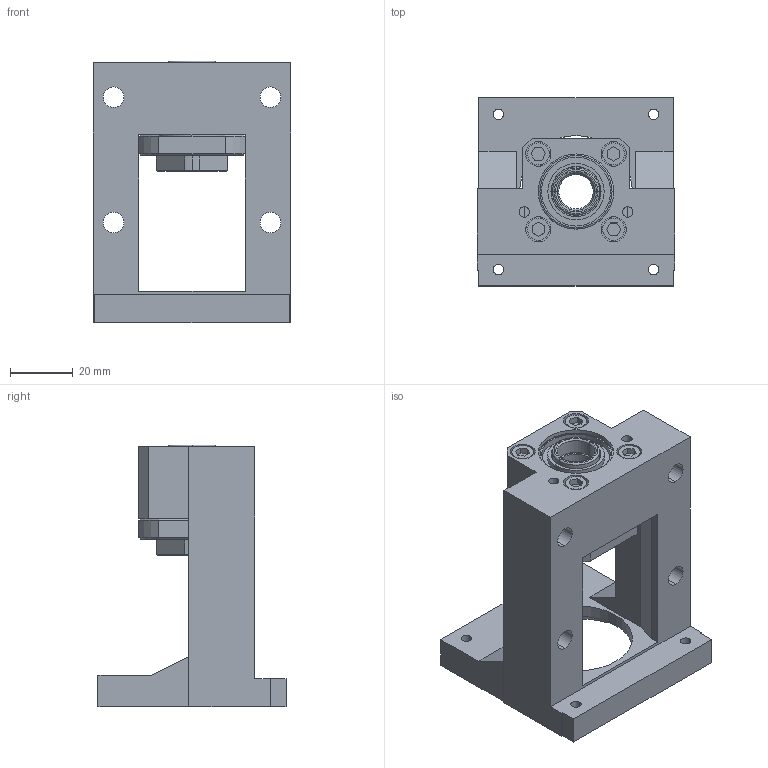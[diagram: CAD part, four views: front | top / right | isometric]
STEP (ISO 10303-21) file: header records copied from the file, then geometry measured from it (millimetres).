
FILE_DESCRIPTION (( 'STEP AP203' ), '1' );
FILE_NAME ('MBCF12-DP.STEP', '2018-11-27T00:35:33', ( '' ), ( '' ), 'SwSTEP 2.0', 'SolidWorks 2018', '' );
FILE_SCHEMA (( 'CONFIG_CONTROL_DESIGN' ));
Length unit declared in the file: millimetre
Products named in the file (1): MBCF12-DP
Bounding box: 63 x 60 x 83.5 mm (x, y, z)
Surface area: 31572.7 mm2 (no closed solid volume)
Topology: 0 solids, 14 shells, 254 faces, 643 edges, 413 vertices
Faces by surface type: plane 102, cylinder 95, cone 43, torus 10, bspline 4
Entity records: 8193 total; most frequent: CARTESIAN_POINT 1877, DIRECTION 1360, ORIENTED_EDGE 1187, EDGE_CURVE 643, AXIS2_PLACEMENT_3D 516, VERTEX_POINT 413, VECTOR 328, LINE 328
